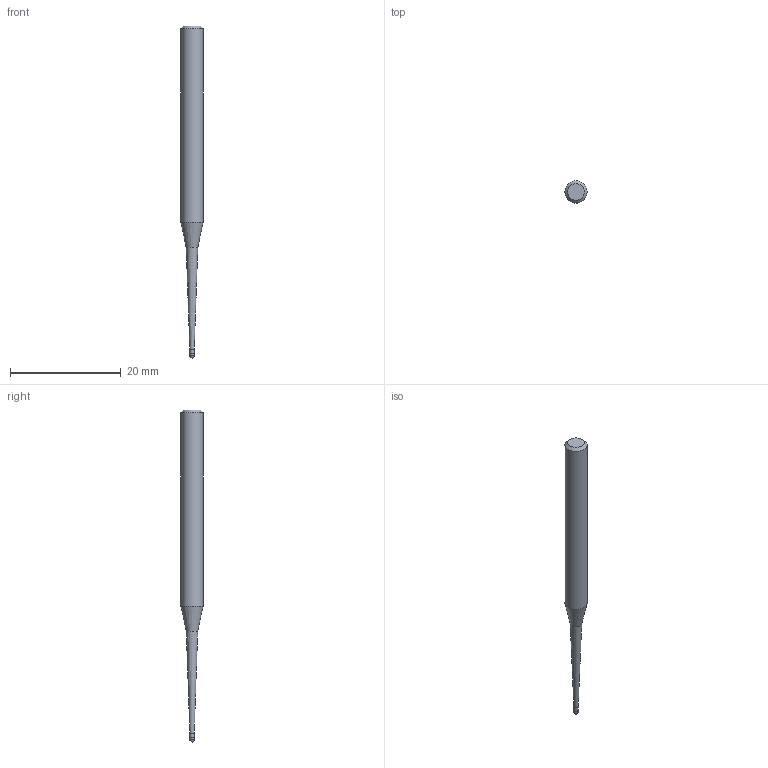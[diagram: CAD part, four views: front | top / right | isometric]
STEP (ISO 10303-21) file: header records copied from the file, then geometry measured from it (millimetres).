
FILE_DESCRIPTION((''),'2;1');
FILE_NAME('C:\Users\nsx150\AppData\Local\Temp\Mastercam 2021\SNAKH10GOD\TEMP.step','2021-10-21T13:32:00',(''),(''),'STEP Write','Mastercam 2021 ... CNC Software, Inc.','');
FILE_SCHEMA(('AUTOMOTIVE_DESIGN'));
Length unit declared in the file: millimetre
Products named in the file (1): None
Bounding box: 4 x 4 x 60 mm (x, y, z)
Volume: 511.2 mm3; surface area: 586.8 mm2
Topology: 2 solids, 2 shells, 10 faces, 16 edges, 9 vertices
Faces by surface type: plane 3, cylinder 3, cone 3, sphere 1
Full cylindrical faces by diameter (mm): 0.785 x1, 0.8 x1, 4 x1
Entity records: 232 total; most frequent: DIRECTION 40, CARTESIAN_POINT 28, AXIS2_PLACEMENT_3D 20, ORIENTED_EDGE 16, EDGE_LOOP 16, STYLED_ITEM 13, ADVANCED_FACE 10, FACE_BOUND 9
